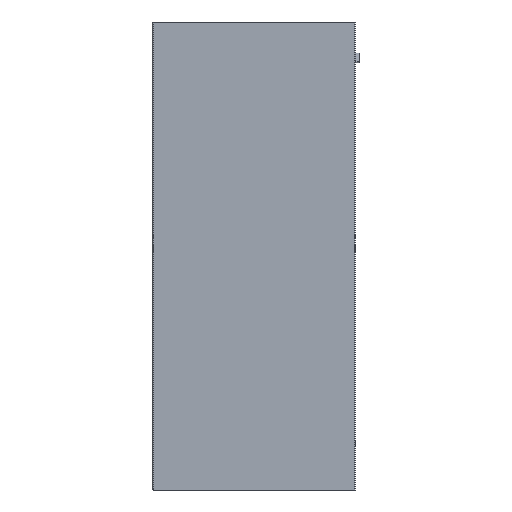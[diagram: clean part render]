
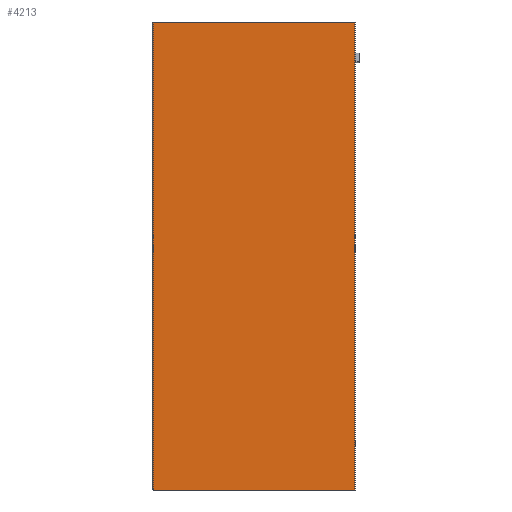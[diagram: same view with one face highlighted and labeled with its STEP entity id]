
A CAD part, left-side view. The second image highlights one B-rep face of the part: STEP entity #4213.
In plain terms, the highlighted planar face has unit normal (-1, 0, 0).
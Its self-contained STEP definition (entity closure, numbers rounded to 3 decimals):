
#326 = ORIENTED_EDGE ( 'NONE', *, *, #1601, .F. ) ;
#517 = CARTESIAN_POINT ( 'NONE',  ( -12.5, 56.8, -549. ) ) ;
#666 = VECTOR ( 'NONE', #11858, 1000. ) ;
#1072 = CARTESIAN_POINT ( 'NONE',  ( -12.5, -30.66, 0. ) ) ;
#1229 = DIRECTION ( 'NONE',  ( 0., 0., 1. ) ) ;
#1428 = PLANE ( 'NONE',  #4356 ) ;
#1450 = ORIENTED_EDGE ( 'NONE', *, *, #8196, .T. ) ;
#1552 = ORIENTED_EDGE ( 'NONE', *, *, #3640, .T. ) ;
#1601 = EDGE_CURVE ( 'NONE', #2106, #11966, #11037, .T. ) ;
#2106 = VERTEX_POINT ( 'NONE', #7264 ) ;
#3419 = LINE ( 'NONE', #10931, #666 ) ;
#3521 = LINE ( 'NONE', #9107, #5809 ) ;
#3640 = EDGE_CURVE ( 'NONE', #7468, #11966, #3419, .T. ) ;
#4213 = ADVANCED_FACE ( 'NONE', ( #12138 ), #1428, .T. ) ;
#4223 = ORIENTED_EDGE ( 'NONE', *, *, #12665, .F. ) ;
#4354 = VERTEX_POINT ( 'NONE', #7663 ) ;
#4356 = AXIS2_PLACEMENT_3D ( 'NONE', #5373, #4446, #11207 ) ;
#4446 = DIRECTION ( 'NONE',  ( -1., 0., 0. ) ) ;
#5122 = DIRECTION ( 'NONE',  ( 0., -1., 0. ) ) ;
#5346 = CARTESIAN_POINT ( 'NONE',  ( -12.5, 55.8, 0. ) ) ;
#5373 = CARTESIAN_POINT ( 'NONE',  ( -12.5, 55.8, -562.455 ) ) ;
#5712 = CARTESIAN_POINT ( 'NONE',  ( -12.5, -30.66, -549. ) ) ;
#5809 = VECTOR ( 'NONE', #1229, 1000. ) ;
#7264 = CARTESIAN_POINT ( 'NONE',  ( -12.5, 205.8, 0. ) ) ;
#7468 = VERTEX_POINT ( 'NONE', #5712 ) ;
#7535 = DIRECTION ( 'NONE',  ( 0., -1., 0. ) ) ;
#7663 = CARTESIAN_POINT ( 'NONE',  ( -12.5, 205.8, -549. ) ) ;
#8196 = EDGE_CURVE ( 'NONE', #4354, #7468, #9845, .T. ) ;
#9107 = CARTESIAN_POINT ( 'NONE',  ( -12.5, 205.8, -562.455 ) ) ;
#9845 = LINE ( 'NONE', #517, #12352 ) ;
#10738 = VECTOR ( 'NONE', #5122, 1000. ) ;
#10931 = CARTESIAN_POINT ( 'NONE',  ( -12.5, -30.66, -562.455 ) ) ;
#11037 = LINE ( 'NONE', #5346, #10738 ) ;
#11207 = DIRECTION ( 'NONE',  ( 0., 1., 0. ) ) ;
#11858 = DIRECTION ( 'NONE',  ( 0., 0., 1. ) ) ;
#11966 = VERTEX_POINT ( 'NONE', #1072 ) ;
#12138 = FACE_OUTER_BOUND ( 'NONE', #12658, .T. ) ;
#12352 = VECTOR ( 'NONE', #7535, 1000. ) ;
#12658 = EDGE_LOOP ( 'NONE', ( #4223, #1450, #1552, #326 ) ) ;
#12665 = EDGE_CURVE ( 'NONE', #4354, #2106, #3521, .T. ) ;
